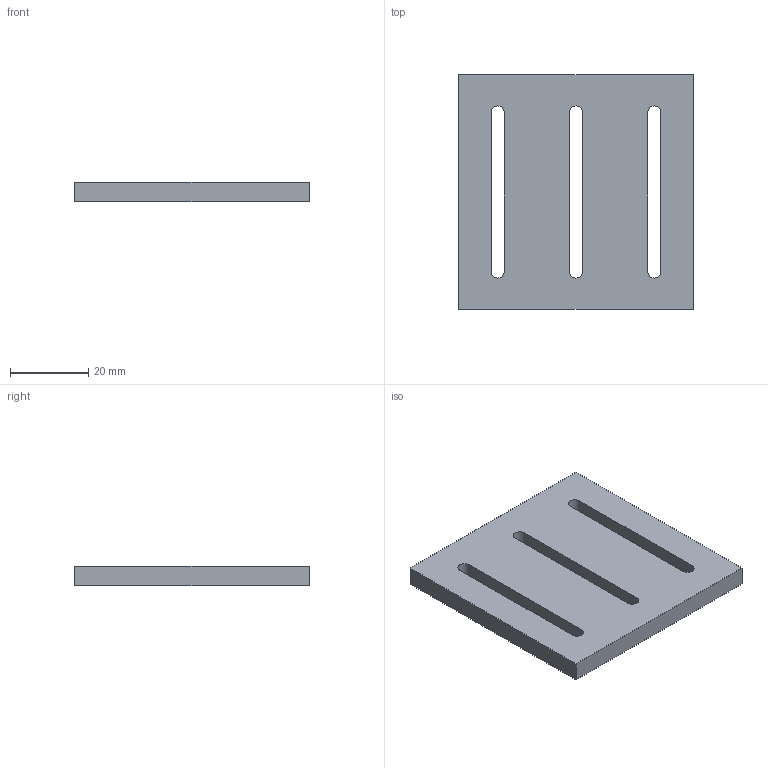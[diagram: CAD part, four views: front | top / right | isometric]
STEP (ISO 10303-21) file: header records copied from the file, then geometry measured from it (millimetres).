
FILE_DESCRIPTION(('Open CASCADE Model'),'2;1');
FILE_NAME('Open CASCADE Shape Model','2026-10-21T16:54:04',('Author'),( 'Open CASCADE'),'Open CASCADE STEP processor 7.9','Open CASCADE 7.9' ,'Unknown');
FILE_SCHEMA(('AUTOMOTIVE_DESIGN { 1 0 10303 214 1 1 1 1 }'));
Length unit declared in the file: millimetre
Products named in the file (1): Open CASCADE STEP translator 7.9 71
Bounding box: 60 x 60 x 5 mm (x, y, z)
Volume: 15793.2 mm3; surface area: 8895.5 mm2
Topology: 1 solids, 1 shells, 18 faces, 48 edges, 32 vertices
Faces by surface type: plane 12, cylinder 6
Entity records: 1246 total; most frequent: CARTESIAN_POINT 267, DIRECTION 182, LINE 120, VECTOR 120, ORIENTED_EDGE 96, PCURVE 96, DEFINITIONAL_REPRESENTATION 96, EDGE_CURVE 48
